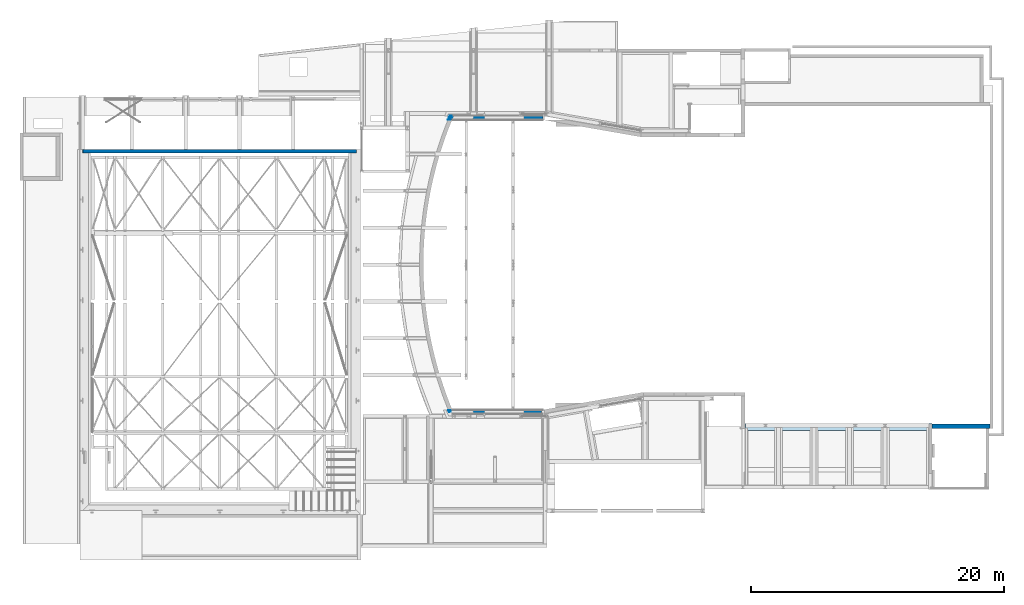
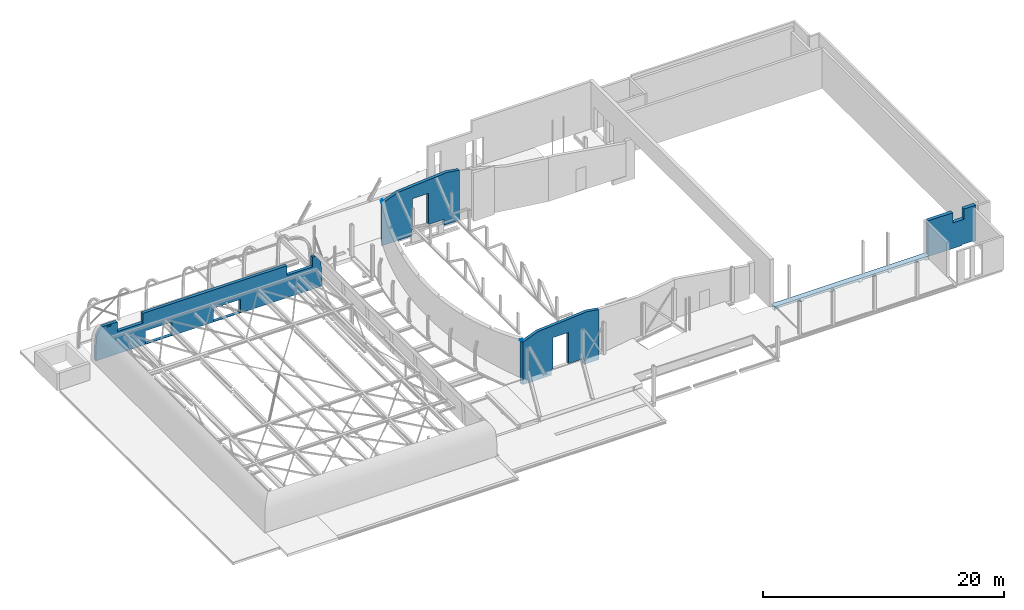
# One storey, part 38 of 38: 5 walls, 1 slab.
"""IFC2X3 building model written with IfcOpenShell, lengths in millimetres."""

from ifc_helpers import new_model, entity, si_unit, converted_unit, derived_unit, direction, frame, origin, place, context, subcontext, project, spatial, faceted_brep, material, layer, layer_set, type_object, element, save


model = new_model("IFC2X3")

# Units and contexts
model_context = context("Model", 3, precision=0.01, world=origin(), true_north=direction((6.12303176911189e-17, 1.0)))
body_context = subcontext(model_context, "Body", "Model", "MODEL_VIEW")
ifc_project = project(units=[si_unit("LENGTHUNIT", "METRE", prefix="MILLI"), si_unit("AREAUNIT", "SQUARE_METRE", prefix="MILLI"), si_unit("VOLUMEUNIT", "CUBIC_METRE"), converted_unit("PLANEANGLEUNIT", "DEGREE", entity("IfcRatioMeasure", 0.0174532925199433), si_unit("PLANEANGLEUNIT", "RADIAN"), dimensions=[0, 0, 0, 0, 0, 0, 0]), si_unit("MASSUNIT", "GRAM", prefix="KILO"), derived_unit("MASSDENSITYUNIT", [(si_unit("MASSUNIT", "GRAM", prefix="KILO"), 1), (si_unit("LENGTHUNIT", "METRE"), -3)]), derived_unit("MOMENTOFINERTIAUNIT", [(si_unit("LENGTHUNIT", "METRE"), 4)]), si_unit("TIMEUNIT", "SECOND"), si_unit("FREQUENCYUNIT", "HERTZ"), si_unit("THERMODYNAMICTEMPERATUREUNIT", "DEGREE_CELSIUS"), derived_unit("THERMALTRANSMITTANCEUNIT", [(si_unit("MASSUNIT", "GRAM", prefix="KILO"), 1), (si_unit("THERMODYNAMICTEMPERATUREUNIT", "KELVIN"), -1), (si_unit("TIMEUNIT", "SECOND"), -3)]), derived_unit("VOLUMETRICFLOWRATEUNIT", [(si_unit("LENGTHUNIT", "METRE"), 3), (si_unit("TIMEUNIT", "SECOND"), -1)]), si_unit("ELECTRICCURRENTUNIT", "AMPERE"), si_unit("ELECTRICVOLTAGEUNIT", "VOLT"), si_unit("POWERUNIT", "WATT"), si_unit("FORCEUNIT", "NEWTON", prefix="KILO"), si_unit("ILLUMINANCEUNIT", "LUX"), si_unit("LUMINOUSFLUXUNIT", "LUMEN"), si_unit("LUMINOUSINTENSITYUNIT", "CANDELA"), derived_unit("USERDEFINED", [(si_unit("MASSUNIT", "GRAM", prefix="KILO"), -1), (si_unit("LENGTHUNIT", "METRE"), -2), (si_unit("TIMEUNIT", "SECOND"), 3), (si_unit("LUMINOUSFLUXUNIT", "LUMEN"), 1)]), derived_unit("LINEARVELOCITYUNIT", [(si_unit("LENGTHUNIT", "METRE"), 1), (si_unit("TIMEUNIT", "SECOND"), -1)]), si_unit("PRESSUREUNIT", "PASCAL"), derived_unit("USERDEFINED", [(si_unit("LENGTHUNIT", "METRE"), -2), (si_unit("MASSUNIT", "GRAM", prefix="KILO"), 1), (si_unit("TIMEUNIT", "SECOND"), -2)]), derived_unit("LINEARFORCEUNIT", [(si_unit("MASSUNIT", "GRAM", prefix="KILO"), 1), (si_unit("LENGTHUNIT", "METRE"), 1), (si_unit("TIMEUNIT", "SECOND"), -2), (si_unit("LENGTHUNIT", "METRE"), -1)]), derived_unit("PLANARFORCEUNIT", [(si_unit("MASSUNIT", "GRAM", prefix="KILO"), 1), (si_unit("LENGTHUNIT", "METRE"), 1), (si_unit("TIMEUNIT", "SECOND"), -2), (si_unit("LENGTHUNIT", "METRE"), -2)])], contexts=[model_context])

# Site, building, storey
site_placement = place(None, origin())
site = spatial("IfcSite", under=ifc_project, at=site_placement, Name="Theater aan de Parade", CompositionType="ELEMENT")
building_placement = place(site_placement, origin())
building = spatial("IfcBuilding", under=site, at=building_placement, Name="Theater aan de Parade", CompositionType="ELEMENT")
storey_placement = place(building_placement, frame((0.0, 0.0, 12480.0)))
storey = spatial("IfcBuildingStorey", under=building, at=storey_placement, Name="03 derde verdieping", CompositionType="ELEMENT", Elevation=12480.0)

# Slab
ifc_material_1 = material(Name="00_PBT_MAT_beton t.p.g._C30/37")
slab_type = type_object("IfcSlabType", Name="Floor:28_PBT_FL_beton t.p.g._d=390_C30/37", PredefinedType="FLOOR")
slab_placement = place(storey_placement, origin())
element("IfcSlab", 1, at=slab_placement, inside=storey, type_object=slab_type, material=ifc_material_1, Name="Floor:28_PBT_FL_beton t.p.g._d=390_C30/37", ObjectType="Floor:28_PBT_FL_beton t.p.g._d=390_C30/37", PredefinedType="FLOOR", context=body_context, shape_type="Brep", body=[
    faceted_brep([(82200.0084217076, 19304.0, -80.0), (78948.8589693, 19304.0, -80.0), (78948.8589693, 19510.0, -80.0), (82200.0084217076, 19510.0, -80.0), (78598.8589693, 19304.0, -80.0), (76138.2082522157, 19304.0, -80.0), (76138.2082522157, 19510.0, -80.0), (78598.8589693, 19510.0, -80.0), (75788.2082522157, 19510.0, -80.0), (75788.2082522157, 19304.0, -80.0), (73327.5575351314, 19304.0, -80.0), (73327.5575351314, 19510.0, -80.0), (72977.5575351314, 19304.0, -80.0), (70516.9068180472, 19304.0, -80.0), (70516.9068180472, 19510.0, -80.0), (72977.5575351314, 19510.0, -80.0), (70166.9068180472, 19304.0, -80.0), (67766.2561009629, 19304.0, -80.0), (67766.2561009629, 19510.0, -80.0), (70166.9068180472, 19510.0, -80.0), (78948.8589693, 19510.0, -280.0), (82200.0084217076, 19510.0, -280.0), (76138.2082522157, 19510.0, -280.0), (78598.8589693, 19510.0, -280.0), (73327.5575351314, 19510.0, -280.0), (75788.2082522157, 19510.0, -280.0), (70516.9068180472, 19510.0, -280.0), (72977.5575351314, 19510.0, -280.0), (67766.2561009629, 19510.0, -280.0), (70166.9068180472, 19510.0, -280.0), (82250.008421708, 19304.0, -280.0), (82224.458321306, 19304.0, -280.0), (82200.0084217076, 19304.0, -280.0), (78948.8589693, 19304.0, -280.0), (78784.3589693, 19304.0, -280.0), (78763.3589693, 19304.0, -280.0), (78598.8589693, 19304.0, -280.0), (76138.2082522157, 19304.0, -280.0), (75973.7082522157, 19304.0, -280.0), (75952.7082522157, 19304.0, -280.0), (75788.2082522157, 19304.0, -280.0), (73327.5575351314, 19304.0, -280.0), (73163.0575351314, 19304.0, -280.0), (73142.0575351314, 19304.0, -280.0), (72977.5575351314, 19304.0, -280.0), (70516.9068180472, 19304.0, -280.0), (70352.4068180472, 19304.0, -280.0), (70331.4068180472, 19304.0, -280.0), (70166.9068180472, 19304.0, -280.0), (67766.2561009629, 19304.0, -280.0), (67731.8062013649, 19304.0, -280.0), (67706.2561009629, 19304.0, -280.0), (67706.2561009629, 19725.2198901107, -280.0), (67718.9561009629, 19725.2198901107, -280.0), (67718.9561009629, 19674.7801098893, -280.0), (76431.4112812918, 19674.7801098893, -280.0), (82237.3084217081, 19674.7801098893, -280.0), (82237.3084217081, 19850.0, -280.0), (82500.0084217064, 19850.0, -280.0), (82500.0084217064, 19810.0002435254, -280.0), (82500.0084217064, 19304.0, -280.0), (67706.2561009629, 19850.0, 110.0), (67706.2561009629, 19304.0, 110.0), (82250.0084217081, 19304.0, 110.0), (82500.0084217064, 19304.0, 110.0), (82500.0084217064, 19810.0002435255, 110.0), (82500.0084217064, 19850.0, 110.0), (82500.0084217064, 19304.0, 0.0), (67706.2561009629, 19304.0, 0.0), (67706.2561009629, 19304.0, -105.0), (67706.2561009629, 19705.5, -254.0), (67706.2561009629, 19707.4450252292, -258.740750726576), (67706.2561009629, 19709.3900504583, -263.481501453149), (67706.2561009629, 19711.3350756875, -268.222252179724), (67706.2561009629, 19713.2801009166, -272.9630029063), (67706.2561009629, 19719.2499955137, -276.48150145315), (67706.2561009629, 19850.0, -19.0), (67706.2561009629, 19732.5, -19.0), (67706.2561009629, 19727.727029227, -20.9770292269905), (67706.2561009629, 19722.954058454, -22.9540584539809), (67706.2561009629, 19718.181087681, -24.9310876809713), (67706.2561009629, 19713.408116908, -26.9081169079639), (67706.2561009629, 19711.431087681, -31.6810876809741), (67706.2561009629, 19709.454058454, -36.4540584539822), (67706.2561009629, 19707.477029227, -41.2270292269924), (67706.2561009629, 19705.5, -46.0), (82237.3084217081, 19850.0, -19.0), (82237.3084217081, 19850.0, 0.0), (67718.9561009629, 19850.0, 0.0), (67718.9561009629, 19850.0, -19.0), (82237.3084217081, 19679.243568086, -276.519073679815), (82237.3084217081, 19682.8615426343, -273.69751643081), (82237.3084217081, 19686.9022590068, -270.546274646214), (82237.3084217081, 19690.9429753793, -267.395032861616), (82237.3084217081, 19693.0265735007, -259.548625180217), (82237.3084217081, 19694.5, -254.0), (82237.3084217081, 19694.5, -46.0), (82237.3084217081, 19692.3348460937, -40.7728560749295), (82237.3084217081, 19690.545941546, -36.4540584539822), (82237.3084217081, 19688.568912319, -31.6810876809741), (82237.3084217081, 19686.591883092, -26.9081169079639), (82237.3084217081, 19681.818912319, -24.9310876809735), (82237.3084217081, 19677.045941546, -22.9540584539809), (82237.3084217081, 19672.7271439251, -21.1651539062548), (82237.3084217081, 19667.5, -19.0), (82237.3084217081, 19550.0, -19.0), (82237.3084217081, 19550.0, 0.0), (67718.9561009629, 19732.5, -19.0), (67718.9561009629, 19724.9236171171, -22.1382405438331), (67718.9561009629, 19719.1658670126, -24.5231787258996), (67718.9561009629, 19713.408116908, -26.9081169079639), (67718.9561009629, 19711.431087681, -31.6810876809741), (67718.9561009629, 19709.454058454, -36.4540584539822), (67718.9561009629, 19707.477029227, -41.2270292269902), (67718.9561009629, 19705.5, -46.0), (67718.9561009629, 19705.5, -254.0), (76432.5632430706, 19694.5, -46.0), (67718.9561009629, 19692.522970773, -41.2270292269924), (74743.3885830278, 19693.4666807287, -38.6019264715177), (76856.0835618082, 19686.769400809, -27.0873007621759), (74978.1322612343, 19689.9496795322, -30.9996037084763), (67718.9561009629, 19686.5918830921, -26.9081169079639), (76431.5333619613, 19667.5, -19.0), (67718.9561009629, 19667.5, -19.0), (67718.9561009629, 19672.7271439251, -21.1651539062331), (74564.014518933, 19675.0704182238, -20.0830409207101), (74978.1322614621, 19682.9171965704, -23.8344851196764), (67718.9561009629, 19688.5689123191, -31.6810876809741), (67718.9561009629, 19690.5459415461, -36.4540584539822), (67718.9561009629, 19682.2730854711, -25.1192123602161), (67718.9561009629, 19677.9542878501, -23.3303078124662), (67718.9561009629, 19694.5, -46.0), (76430.6144788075, 19694.5, -254.0), (67718.9561009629, 19694.5, -254.0), (67718.9561009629, 19550.0, 0.0), (67718.9561009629, 19721.1791670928, -276.848746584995), (67718.9561009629, 19717.1384440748, -273.697493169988), (67718.9561009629, 19713.0977210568, -270.546239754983), (67718.9561009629, 19709.0569980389, -267.394986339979), (67718.9561009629, 19707.2784990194, -260.697493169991), (67718.9561009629, 19550.0, -19.0), (67718.9561009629, 19692.5549651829, -258.740760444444), (67718.9561009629, 19690.6099303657, -263.481520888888), (67718.9561009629, 19688.6648955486, -268.222281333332), (67718.9561009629, 19686.7198607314, -272.963041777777), (67718.9561009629, 19679.7259516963, -277.085057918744), (74757.8581439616, 19693.4706416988, -261.38415667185), (74132.4287168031, 19690.02506216, -268.886959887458)], [[[0, 1, 2, 3]], [[4, 5, 6, 7]], [[8, 9, 10, 11]], [[12, 13, 14, 15]], [[16, 17, 18, 19]], [[2, 20, 21, 3]], [[6, 22, 23, 7]], [[11, 24, 25, 8]], [[14, 26, 27, 15]], [[19, 18, 28, 29]], [[30, 31, 32, 21, 20, 33, 34, 35, 36, 23, 22, 37, 38, 39, 40, 25, 24, 41, 42, 43, 44, 27, 26, 45, 46, 47, 48, 29, 28, 49, 50, 51, 52, 53, 54, 55, 56, 57, 58, 59, 60]], [[61, 62, 63, 64, 65, 66]], [[31, 30, 60, 67, 64, 63, 62, 68, 69, 51, 50, 49, 17, 16, 48, 47, 46, 45, 13, 12, 44, 43, 42, 41, 10, 9, 40, 39, 38, 37, 5, 4, 36, 35, 34, 33, 1, 0, 32]], [[70, 71, 72, 73, 74, 75, 52, 51, 69, 68, 62, 61, 76, 77, 78, 79, 80, 81, 82, 83, 84, 85]], [[58, 57, 86, 87, 88, 89, 76, 61, 66]], [[59, 58, 66, 65, 64, 67, 60]], [[57, 56, 90, 91, 92, 93, 94, 95, 96, 97, 98, 99, 100, 101, 102, 103, 104, 105, 106, 87, 86]], [[77, 76, 89, 107]], [[108, 109, 110, 81, 80, 79, 78, 77, 107]], [[111, 112, 113, 114, 85, 84, 83, 82, 81, 110]], [[70, 85, 114, 115]], [[116, 117, 118]], [[119, 120, 121]], [[122, 104, 103]], [[123, 122, 124]], [[125, 124, 122]], [[99, 98, 120]], [[116, 118, 97]], [[126, 125, 102]], [[126, 101, 119]], [[127, 121, 120, 128]], [[129, 130, 126, 121]], [[102, 125, 103]], [[122, 103, 125]], [[126, 119, 121]], [[126, 130, 125]], [[97, 118, 98]], [[101, 100, 119]], [[98, 118, 120]], [[97, 96, 116]], [[116, 131, 117]], [[118, 128, 120]], [[101, 126, 102]], [[125, 130, 124]], [[99, 119, 100]], [[120, 119, 99]], [[117, 128, 118]], [[131, 116, 96, 95, 132, 133]], [[134, 88, 87, 106]], [[53, 135, 136, 137, 138, 139, 115, 114, 113, 112, 111, 110, 109, 108, 107, 89, 88, 134, 140, 123, 124, 130, 129, 121, 127, 128, 117, 131, 133, 141, 142, 143, 144, 145, 54]], [[140, 134, 106, 105]], [[123, 140, 105, 104, 122]], [[3, 21, 32, 0]], [[45, 26, 14, 13]], [[16, 19, 29, 48]], [[41, 24, 11, 10]], [[12, 15, 27, 44]], [[5, 37, 22, 6]], [[40, 9, 8, 25]], [[33, 20, 2, 1]], [[4, 7, 23, 36]], [[71, 70, 115]], [[75, 74, 136]], [[137, 73, 138]], [[75, 136, 135]], [[135, 53, 52]], [[139, 72, 71]], [[139, 138, 72]], [[52, 75, 135]], [[137, 136, 74]], [[115, 139, 71]], [[73, 137, 74]], [[73, 72, 138]], [[132, 94, 146]], [[146, 141, 132]], [[143, 142, 147, 144]], [[132, 95, 94]], [[145, 55, 54]], [[147, 142, 146]], [[93, 146, 94]], [[92, 91, 147, 93]], [[144, 147, 91]], [[90, 55, 145]], [[90, 145, 91]], [[90, 56, 55]], [[144, 91, 145]], [[93, 147, 146]], [[133, 132, 141]], [[146, 142, 141]], [[17, 49, 28, 18]]]),
])

# Walls
ifc_material_2 = material(Name="00_PBT_MAT_beton t.p.g.")
ifc_layer_1 = layer(ifc_material_2, 300.0)
ifc_layer_set_1 = layer_set([ifc_layer_1], Name="Basic Wall:28_PBT_WA_beton t.p.g._d=300_bestaand")
wall_type_1 = type_object("IfcWallType", Name="Basic Wall:28_PBT_WA_beton t.p.g._d=300_bestaand", PredefinedType="STANDARD", material=ifc_layer_set_1)
wall_1_placement = place(storey_placement, frame((44178.3814569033, 44060.0, -400.0)))
element("IfcWall", 2, at=wall_1_placement, inside=storey, type_object=wall_type_1, Name="Basic Wall:28_PBT_WA_beton t.p.g._d=300_bestaand", ObjectType="Basic Wall:28_PBT_WA_beton t.p.g._d=300_bestaand", context=body_context, shape_type="Brep", body=[
    faceted_brep([(0.0, -150.0, 390.0), (0.0, -150.0, 0.0), (324.289781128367, -150.0, 0.0), (1932.60517738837, -150.0, 0.0), (2901.6538016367, -150.0, 0.0), (2901.65380163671, -150.0, 600.0), (3006.30799509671, -150.0, 600.0), (3006.30799509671, -150.0, 3755.0), (4506.3079950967, -150.0, 3755.0), (4506.3079950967, -150.0, 600.0), (6001.65380163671, -150.0, 600.0), (6001.65380163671, -150.0, 0.0), (7491.6185430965, -150.0, 0.0), (7504.64456470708, -150.0, 0.0), (7504.64456470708, -150.0, 5068.45702133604), (6307.2762329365, -150.0, 5258.10160587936), (1589.81671043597, -150.0, 4880.9006186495), (0.0, -150.0, 4261.05731522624), (0.0, -150.0, 2325.52865761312), (7504.64456470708, 150.0, 0.0), (6001.65380163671, 150.0, 0.0), (6001.65380163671, 150.0, 600.0), (4506.3079950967, 150.0, 600.0), (4506.3079950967, 150.0, 3755.0), (3006.30799509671, 150.0, 3755.0), (3006.30799509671, 150.0, 600.0), (2901.65380163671, 150.0, 600.0), (2901.6538016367, 150.0, 0.0), (2066.14430179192, 150.0, 0.0), (450.055069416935, 150.0, 0.0), (124.306440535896, 150.0, 0.0), (124.306440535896, 150.0, 390.0), (124.306440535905, 150.0, 1589.63848480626), (124.306440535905, 150.0, 2789.27696961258), (124.306440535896, 150.0, 4309.52234533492), (1589.81671043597, 150.0, 4880.9006186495), (6307.2762329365, 150.0, 5258.10160587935), (7504.64456470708, 150.0, 5068.45702133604), (51.6773218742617, -24.1769763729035, 1350.8819748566), (61.7517165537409, 0.166364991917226, 0.0), (62.2243920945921, 1.3070500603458, 2513.62863180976), (61.7517165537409, 0.166364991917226, 4285.13329060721)], [[[0, 1, 2, 3, 4, 5, 6, 7, 8, 9, 10, 11, 12, 13, 14, 15, 16, 17, 18]], [[19, 20, 21, 22, 23, 24, 25, 26, 27, 28, 29, 30, 31, 32, 33, 34, 35, 36, 37]], [[38, 39, 0]], [[32, 40, 33]], [[17, 41, 40]], [[31, 38, 32]], [[31, 30, 39]], [[41, 34, 33]], [[39, 1, 0]], [[40, 38, 18]], [[32, 38, 40]], [[41, 33, 40]], [[39, 38, 31]], [[40, 18, 17]], [[0, 18, 38]], [[3, 2, 1, 39, 30, 29, 28, 27, 4]], [[12, 11, 20, 19, 13]], [[14, 13, 19, 37]], [[6, 5, 26, 25]], [[10, 9, 22, 21]], [[7, 6, 25, 24]], [[8, 7, 24, 23]], [[9, 8, 23, 22]], [[15, 14, 37, 36]], [[16, 15, 36, 35]], [[17, 16, 35, 34, 41]], [[5, 4, 27, 26]], [[11, 10, 21, 20]]]),
])
wall_2_placement = place(storey_placement, frame((44202.9420644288, 20780.0, -400.0)))
element("IfcWall", 3, at=wall_2_placement, inside=storey, type_object=wall_type_1, Name="Basic Wall:28_PBT_WA_beton t.p.g._d=300_bestaand", ObjectType="Basic Wall:28_PBT_WA_beton t.p.g._d=300_bestaand", context=body_context, shape_type="Brep", body=[
    faceted_brep([(125.060155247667, -150.0, 390.0), (125.060155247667, -150.0, 0.0), (451.107490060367, -150.0, 0.0), (2068.78942841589, -150.0, 0.0), (2877.09319411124, -150.0, 0.0), (2877.09319411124, -150.0, 600.0), (2981.74738757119, -150.0, 600.0), (2981.74738757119, -150.0, 3755.0), (4481.74738757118, -150.0, 3755.0), (4481.74738757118, -150.0, 600.0), (5977.09319411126, -150.0, 600.0), (5977.09319411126, -150.0, 0.0), (7394.36967146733, -150.0, 0.0), (7407.3956930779, -150.0, 0.0), (7407.3956930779, -150.0, 5079.96984418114), (6282.71270621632, -150.0, 5258.10219671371), (1565.25885260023, -150.0, 4880.90166275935), (125.060155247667, -150.0, 4319.39195394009), (125.060155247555, -150.0, 2354.69597697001), (125.060155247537, -150.0, 1372.34798848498), (7381.34364985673, 150.0, 0.0), (5977.09319411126, 150.0, 0.0), (5977.09319411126, 150.0, 600.0), (4481.74738757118, 150.0, 600.0), (4481.74738757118, 150.0, 3755.0), (2981.74738757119, 150.0, 3755.0), (2981.74738757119, 150.0, 600.0), (2877.09319411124, 150.0, 600.0), (2877.09319411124, 150.0, 0.0), (1934.42215738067, 150.0, 0.0), (324.576979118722, 150.0, 0.0), (0.0, 150.0, 0.0), (0.0, 150.0, 390.0), (0.0, 150.0, 1570.19384367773), (0.0, 150.0, 2750.38768735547), (0.0, 150.0, 4270.63306290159), (1565.25885260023, 150.0, 4880.90166275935), (6282.71270621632, 150.0, 5258.10219671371), (7381.34364985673, 150.0, 5084.0960840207), (62.1282162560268, -0.167522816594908, 0.0), (62.1282162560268, -0.167522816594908, 4294.85582930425), (63.9431695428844, -4.52036256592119, 1863.52198270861), (71.3108673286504, -22.1709289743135, 3081.29878403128)], [[[0, 1, 2, 3, 4, 5, 6, 7, 8, 9, 10, 11, 12, 13, 14, 15, 16, 17, 18, 19]], [[20, 21, 22, 23, 24, 25, 26, 27, 28, 29, 30, 31, 32, 33, 34, 35, 36, 37, 38]], [[14, 13, 20, 38]], [[2, 1, 39, 31, 30, 29, 28, 4, 3]], [[11, 21, 20, 13, 12]], [[6, 5, 27, 26]], [[10, 9, 23, 22]], [[7, 6, 26, 25]], [[8, 7, 25, 24]], [[9, 8, 24, 23]], [[15, 14, 38, 37]], [[16, 15, 37, 36]], [[17, 16, 36, 35, 40]], [[32, 39, 41]], [[17, 42, 18]], [[33, 32, 41, 34]], [[17, 40, 42]], [[32, 31, 39]], [[42, 40, 35]], [[39, 1, 0, 19]], [[41, 18, 42]], [[19, 18, 41]], [[34, 41, 42]], [[35, 34, 42]], [[19, 41, 39]], [[5, 4, 28, 27]], [[11, 10, 22, 21]]]),
])
ifc_layer_2 = layer(ifc_material_2, 150.0)
ifc_layer_set_2 = layer_set([ifc_layer_2], Name="Basic Wall:28_PBT_WA_beton t.p.g._d=150_bestaand")
wall_type_2 = type_object("IfcWallType", Name="Basic Wall:28_PBT_WA_beton t.p.g._d=150_bestaand", PredefinedType="STANDARD", material=ifc_layer_set_2)
wall_3_placement = place(storey_placement, frame((44396.417906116, 44239.224652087, 3972.79541659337)))
element("IfcWall", 4, at=wall_3_placement, inside=storey, type_object=wall_type_2, Name="Basic Wall:28_PBT_WA_beton t.p.g._d=150_bestaand", ObjectType="Basic Wall:28_PBT_WA_beton t.p.g._d=150_bestaand", context=body_context, shape_type="Brep", body=[
    faceted_brep([(-193.47584168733, -23309.2246520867, 9.92631976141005), (-156.551003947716, -23398.7483796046, 9.92631976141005), (-193.475841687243, -23309.2246520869, 58.8353137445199), (-174.80892940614, -23354.5836532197, 66.1132387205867), (-156.068092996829, -23399.913839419, 73.4199855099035), (-119.340517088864, -23488.1537547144, 9.92631976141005), (-119.340517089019, -23488.1537547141, 73.4199855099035), (-137.739063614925, -23444.0482644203, 73.4199855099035), (-156.068092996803, -23309.2246520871, 73.4199855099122), (19.0517806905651, -23430.2955494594, 9.92631976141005), (-6.16792293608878, -23369.7874190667, 9.92631976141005), (-6.16792293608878, -23369.7874190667, 73.4199855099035), (19.0517806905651, -23430.2955494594, 73.4199855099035), (-31.256138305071, -23309.2246520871, 9.92631976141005), (-31.2561383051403, -23309.2246520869, 73.4199855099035)], [[[0, 1, 2]], [[3, 2, 1]], [[1, 4, 3]], [[5, 6, 7]], [[4, 1, 7]], [[7, 1, 5]], [[3, 4, 8, 2]], [[9, 10, 11, 12]], [[13, 14, 11, 10]], [[12, 6, 5, 9]], [[1, 0, 13, 10, 9, 5]], [[14, 8, 4, 7, 6, 12, 11]], [[14, 13, 0, 2, 8]]]),
    faceted_brep([(6.15235254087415, -179.056341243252, 0.0), (-55.9594496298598, -329.224652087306, 112.450714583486), (-55.9594496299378, -329.224652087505, 0.0), (6.1511966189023, -179.059114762, 136.666643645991), (69.0718445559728, -29.2246520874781, 0.0), (69.0718445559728, -29.2246520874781, 161.198379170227), (-156.285922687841, -179.061159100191, 73.3350572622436), (-93.7300086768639, -29.2246520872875, 97.7245889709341), (-93.7300086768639, -29.2246520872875, 0.0), (-156.28473265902, -179.058287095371, 0.0), (-218.036449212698, -329.224652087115, 49.2595330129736), (-218.036449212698, -329.224652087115, 0.0)], [[[0, 1, 2]], [[3, 1, 0]], [[0, 4, 3]], [[5, 3, 4]], [[6, 7, 8]], [[6, 8, 9]], [[9, 10, 6]], [[10, 9, 11]], [[8, 4, 0, 2, 11, 9]], [[7, 6, 10, 1, 3, 5]], [[10, 11, 2, 1]], [[5, 4, 8, 7]]]),
])
ifc_layer_3 = layer(ifc_material_1, 300.0)
ifc_layer_set_3 = layer_set([ifc_layer_3], Name="Basic Wall:28_PBT_WA_beton t.p.g._d=300_C30/37")
wall_type_3 = type_object("IfcWallType", Name="Basic Wall:28_PBT_WA_beton t.p.g._d=300_C30/37", PredefinedType="STANDARD", material=ifc_layer_set_3)
wall_4_placement = place(storey_placement, frame((15253.2677512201, 41423.308327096, -340.0)))
element("IfcWall", 5, at=wall_4_placement, inside=storey, type_object=wall_type_3, Name="Basic Wall:28_PBT_WA_beton t.p.g._d=300_C30/37", ObjectType="Basic Wall:28_PBT_WA_beton t.p.g._d=300_C30/37", context=body_context, shape_type="Brep", body=[
    faceted_brep([(4766.7275491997, 150.0, 3250.0), (4516.72754919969, 150.0, 3250.0), (4516.7275491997, -89.0809256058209, 3250.0), (4516.7275491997, -90.0, 3250.0), (4516.7275491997, -150.0, 3250.0), (18345.7497919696, -150.0, 3250.0), (18345.7497919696, -89.0809256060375, 3250.0), (18345.7497919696, 150.0, 3250.0), (874.521531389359, -150.0, 3250.0), (2066.72754919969, -150.0, 3250.0), (2066.72754919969, -90.0, 3250.0), (2066.72754919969, -89.0809256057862, 3250.0), (2066.72754919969, 150.0, 3250.0), (1816.72754919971, 150.0, 3250.0), (637.404806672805, 150.0, 3250.0), (637.404806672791, -150.0, 3250.0), (20795.7497919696, -150.0, 3250.0), (21063.7748234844, -150.0, 3250.0), (21063.7748234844, 150.0, 3250.0), (20795.7497919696, 150.0, 3250.0), (21600.5903788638, -150.0, 0.0), (21701.1796301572, -150.0, 0.0), (21701.1796301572, -150.0, 460.198214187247), (20795.7497919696, -150.0, 2270.0), (18345.7497919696, -150.0, 2270.0), (13865.736948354, -150.0, 34.1614515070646), (11315.736948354, -150.0, 34.1614515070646), (0.0, -150.0, 0.0), (21694.2392107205, -150.0, 934.315651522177), (21675.8433787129, -150.0, 1408.12690842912), (21646.0028786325, -150.0, 1881.35524481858), (21604.7351394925, -150.0, 2353.724261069), (21575.310925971, -150.0, 2484.24917542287), (21534.0447754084, -150.0, 2611.52699134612), (21481.2842312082, -150.0, 2734.48577543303), (21417.4736425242, -150.0, 2852.08996915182), (21343.1504219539, -150.0, 2963.3491103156), (21258.9405194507, -150.0, 3067.3261747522), (21165.5531505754, -150.0, 3163.14546791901), (13865.736948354, -150.0, 1384.16145150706), (11315.736948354, -150.0, 1384.16145150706), (7322.53694835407, -150.0, 1394.96), (4516.7275491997, -150.0, 2270.0), (4772.53694835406, -150.0, 1394.96), (2066.72754919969, -150.0, 2270.0), (4772.53694835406, -150.0, 44.9600000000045), (0.0, -150.0, 460.198214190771), (6.94041943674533, -150.0, 934.315651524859), (25.3362514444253, -150.0, 1408.12690843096), (55.1767515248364, -150.0, 1881.3552448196), (1081.57724797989, -150.0, 3050.4626244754), (1481.5772479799, -150.0, 3050.4626244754), (1481.5772479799, -150.0, 3200.46262447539), (1081.57724797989, -150.0, 3200.46262447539), (535.626479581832, -150.0, 3163.14546791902), (442.239110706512, -150.0, 3067.32617475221), (358.029208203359, -150.0, 2963.34911031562), (283.70598763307, -150.0, 2852.08996915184), (219.895398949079, -150.0, 2734.48577543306), (167.134854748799, -150.0, 2611.52699134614), (125.868704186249, -150.0, 2484.2491754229), (96.4444906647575, -150.0, 2353.72426106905), (7322.53694835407, -150.0, 44.9600000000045), (21165.5531505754, 150.0, 3163.14546791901), (21258.9405194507, 150.0, 3067.3261747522), (20795.7497919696, 150.0, 2270.0), (21343.1504219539, 150.0, 2963.3491103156), (21417.4736425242, 150.0, 2852.08996915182), (21481.2842312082, 150.0, 2734.48577543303), (21534.0447754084, 150.0, 2611.52699134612), (21575.310925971, 150.0, 2484.24917542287), (21604.7351394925, 150.0, 2353.72426106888), (21646.0028786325, 150.0, 1881.35524481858), (21675.8433787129, 150.0, 1408.12690842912), (21694.2392107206, 150.0, 934.315651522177), (21701.1796301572, 150.0, 460.198214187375), (21600.5903788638, 150.0, 0.0), (21701.1796301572, 150.0, 0.0), (18345.7497919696, 150.0, 2270.0), (13865.736948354, 150.0, 34.1614515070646), (11315.736948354, 150.0, 34.1614515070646), (0.0, 150.0, 0.0), (7322.53694835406, 150.0, 44.9600000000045), (4772.53694835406, 150.0, 44.9600000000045), (2066.72754919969, 150.0, 2270.0), (0.0, 150.0, 460.198214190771), (6.94041943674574, 150.0, 934.315651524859), (25.3362514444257, 150.0, 1408.12690843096), (55.1767515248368, 150.0, 1881.3552448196), (1081.57724797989, 150.0, 3050.4626244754), (96.4444906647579, 150.0, 2353.72426106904), (125.868704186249, 150.0, 2484.2491754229), (167.1348547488, 150.0, 2611.52699134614), (219.89539894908, 150.0, 2734.48577543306), (283.705987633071, 150.0, 2852.08996915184), (358.02920820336, 150.0, 2963.34911031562), (442.239110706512, 150.0, 3067.32617475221), (535.626479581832, 150.0, 3163.14546791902), (1081.57724797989, 150.0, 3200.46262447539), (1481.5772479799, 150.0, 3200.46262447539), (1481.5772479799, 150.0, 3050.4626244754), (4772.53694835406, 150.0, 1394.96), (4516.72754919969, 150.0, 2270.0), (7322.53694835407, 150.0, 1394.96), (11315.736948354, 150.0, 1384.16145150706), (13865.736948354, 150.0, 1384.16145150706)], [[[0, 1, 2, 3, 4, 5, 6, 7]], [[8, 9, 10, 11, 12, 13, 14, 15]], [[16, 17, 18, 19]], [[20, 21, 22]], [[23, 20, 22]], [[20, 23, 24]], [[24, 25, 20]], [[20, 25, 26]], [[20, 26, 27]], [[28, 23, 22]], [[28, 29, 23]], [[23, 29, 30]], [[23, 30, 31]], [[31, 32, 23]], [[33, 23, 32]], [[33, 34, 23]], [[23, 34, 35]], [[36, 23, 35]], [[36, 37, 23]], [[23, 37, 16]], [[38, 16, 37]], [[38, 17, 16]], [[24, 39, 25]], [[5, 39, 24]], [[40, 39, 5]], [[40, 5, 4]], [[4, 41, 40]], [[4, 42, 41]], [[43, 41, 42]], [[43, 42, 44]], [[45, 44, 27]], [[27, 44, 46]], [[47, 46, 44]], [[47, 44, 48]], [[49, 48, 44]], [[44, 50, 49]], [[44, 45, 43]], [[44, 51, 50]], [[44, 9, 51]], [[51, 9, 52]], [[52, 9, 8]], [[53, 52, 8]], [[50, 53, 8]], [[50, 8, 54]], [[8, 15, 54]], [[55, 50, 54]], [[50, 55, 56]], [[56, 57, 50]], [[58, 50, 57]], [[58, 59, 50]], [[60, 50, 59]], [[60, 61, 50]], [[49, 50, 61]], [[41, 62, 40]], [[62, 45, 27]], [[40, 62, 26]], [[62, 27, 26]], [[63, 19, 18]], [[19, 63, 64]], [[65, 19, 64]], [[64, 66, 65]], [[67, 65, 66]], [[65, 67, 68]], [[68, 69, 65]], [[70, 65, 69]], [[65, 70, 71]], [[65, 71, 72]], [[65, 72, 73]], [[65, 73, 74]], [[65, 74, 75]], [[65, 75, 76]], [[76, 75, 77]], [[76, 78, 65]], [[76, 79, 78]], [[79, 76, 80]], [[80, 76, 81]], [[82, 80, 81]], [[81, 83, 82]], [[81, 84, 83]], [[81, 85, 84]], [[86, 84, 85]], [[86, 87, 84]], [[88, 84, 87]], [[88, 89, 84]], [[88, 90, 89]], [[90, 91, 89]], [[91, 92, 89]], [[92, 93, 89]], [[94, 89, 93]], [[95, 89, 94]], [[89, 95, 96]], [[96, 97, 89]], [[14, 89, 97]], [[98, 89, 14]], [[13, 98, 14]], [[13, 12, 84]], [[13, 99, 98]], [[99, 13, 100]], [[100, 13, 84]], [[84, 89, 100]], [[83, 84, 101]], [[102, 101, 84]], [[102, 103, 101]], [[102, 0, 103]], [[1, 0, 102]], [[104, 103, 0]], [[0, 7, 104]], [[7, 78, 105]], [[105, 104, 7]], [[82, 103, 104]], [[82, 104, 80]], [[79, 105, 78]], [[20, 27, 81, 76, 77, 21]], [[75, 74, 28, 22]], [[28, 74, 73, 29]], [[72, 71, 31, 30]], [[72, 30, 29, 73]], [[32, 31, 71, 70]], [[33, 32, 70, 69]], [[34, 33, 69, 68]], [[68, 67, 35, 34]], [[37, 36, 66, 64]], [[38, 37, 64, 63]], [[17, 38, 63, 18]], [[67, 66, 36, 35]], [[54, 15, 14, 97]], [[55, 54, 97, 96]], [[56, 55, 96, 95]], [[95, 94, 57, 56]], [[59, 58, 93, 92]], [[60, 59, 92, 91]], [[61, 60, 91, 90]], [[94, 93, 58, 57]], [[90, 88, 49, 61]], [[48, 49, 88, 87]], [[86, 85, 46, 47]], [[86, 47, 48, 87]], [[83, 101, 43, 45]], [[83, 45, 62, 82]], [[103, 82, 62, 41]], [[101, 103, 41, 43]], [[22, 21, 77, 75]], [[27, 46, 85, 81]], [[80, 104, 40, 26]], [[80, 26, 25, 79]], [[105, 79, 25, 39]], [[104, 105, 39, 40]], [[98, 53, 50, 89]], [[100, 89, 50, 51]], [[100, 51, 52, 99]], [[99, 52, 53, 98]], [[6, 5, 24, 78, 7]], [[78, 24, 23, 65]], [[84, 44, 42, 102]], [[65, 23, 16, 19]], [[10, 9, 44, 84, 12, 11]], [[3, 2, 1, 102, 42, 4]]]),
])
ifc_layer_4 = layer(ifc_material_1, 350.0)
ifc_layer_set_4 = layer_set([ifc_layer_4], Name="Basic Wall:28_PBT_WA_beton t.p.g._d=350_C30/37")
wall_type_4 = type_object("IfcWallType", Name="Basic Wall:28_PBT_WA_beton t.p.g._d=350_C30/37", PredefinedType="STANDARD", material=ifc_layer_set_4)
wall_5_placement = place(storey_placement, frame((82500.0084217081, 19635.0002435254, -80.0)))
element("IfcWall", 6, at=wall_5_placement, inside=storey, type_object=wall_type_4, Name="Basic Wall:28_PBT_WA_beton t.p.g._d=350_C30/37", ObjectType="Basic Wall:28_PBT_WA_beton t.p.g._d=350_C30/37", context=body_context, shape_type="Brep", body=[
    faceted_brep([(4312.85054780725, -175.0, 0.0), (4595.99157829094, -175.0, 0.0), (4595.99157829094, -175.0, 3635.0), (3444.54587099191, -175.0, 3635.0), (3444.54587099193, -175.0, 2600.0), (2390.54587099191, -175.0, 2600.0), (2390.54587099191, -175.0, 3635.0), (0.0, -175.0, 3635.0), (0.0, -175.0, 0.0), (3258.85054780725, -175.0, 0.0), (3258.85054780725, -175.0, 80.0), (4265.99157828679, -175.0, 80.0), (4312.85054780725, -175.0, 80.0), (4595.99157829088, 175.0, 0.0), (4312.85054780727, 175.0, 0.0), (4312.85054780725, 175.0, 80.0), (3258.85054780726, 175.0, 80.0), (3258.85054780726, 175.0, 0.0), (0.0, 175.0, 0.0), (0.0, 175.0, 190.0), (0.0, 175.0, 3635.0), (2390.54587099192, 175.0, 3635.0), (2390.5458709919, 175.0, 2600.0), (3444.54587099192, 175.0, 2600.0), (3444.54587099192, 175.0, 3635.0), (4595.99157829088, 175.0, 3635.0)], [[[0, 1, 2, 3, 4, 5, 6, 7, 8, 9, 10, 11, 12]], [[13, 14, 15, 16, 17, 18, 19, 20, 21, 22, 23, 24, 25]], [[1, 0, 14, 13]], [[7, 6, 21, 20]], [[1, 13, 25, 2]], [[18, 8, 7, 20, 19]], [[5, 22, 21, 6]], [[22, 5, 4, 23]], [[23, 4, 3, 24]], [[16, 10, 9, 17]], [[12, 15, 14, 0]], [[10, 16, 15, 12, 11]], [[3, 2, 25, 24]], [[8, 18, 17, 9]]]),
])

save(model, "model.ifc")
